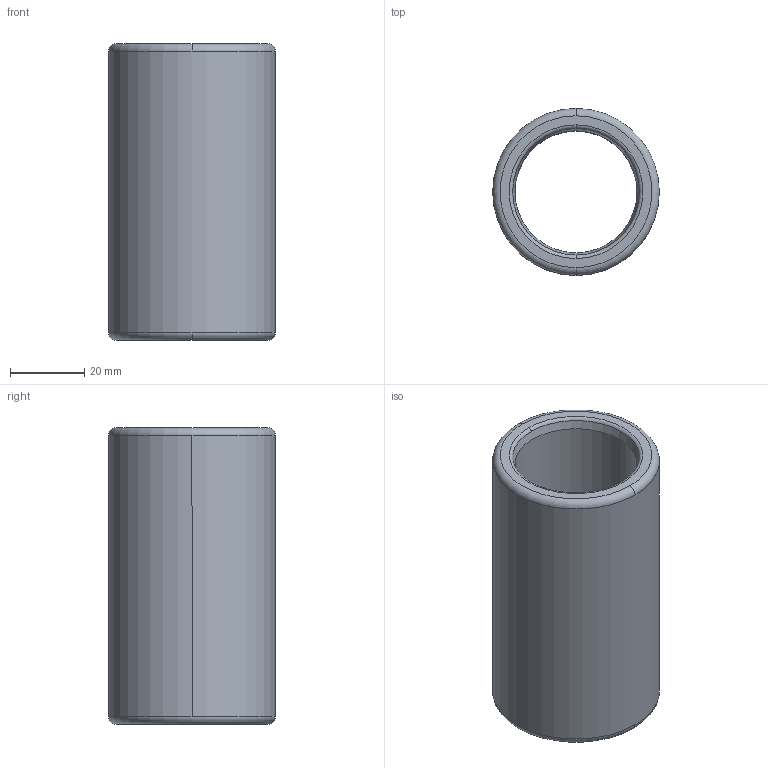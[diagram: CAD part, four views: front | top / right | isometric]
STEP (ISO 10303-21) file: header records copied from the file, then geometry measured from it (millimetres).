
FILE_DESCRIPTION((''),'2;1');
FILE_NAME('B30_025_080.stp','2009-01-12T09:59:06',(''),(''),'Mechanical Desktop 2009','Mechanical Desktop 2009',', , ');
FILE_SCHEMA(('CONFIG_CONTROL_DESIGN'));
Length unit declared in the file: millimetre
Products named in the file (2): Product; blmdl1
Assembly tree (1 placements, depth 2):
  Product
    blmdl1
Bounding box: 44.99 x 44.99 x 80 mm (x, y, z)
Volume: 58375.8 mm3; surface area: 20634.6 mm2
Topology: 1 solids, 1 shells, 18 faces, 48 edges, 32 vertices
Faces by surface type: torus 8, cylinder 4, cone 4, plane 2
Entity records: 705 total; most frequent: DIRECTION 128, CARTESIAN_POINT 100, ORIENTED_EDGE 96, AXIS2_PLACEMENT_3D 60, EDGE_CURVE 48, CIRCLE 40, VERTEX_POINT 32, EDGE_LOOP 20
